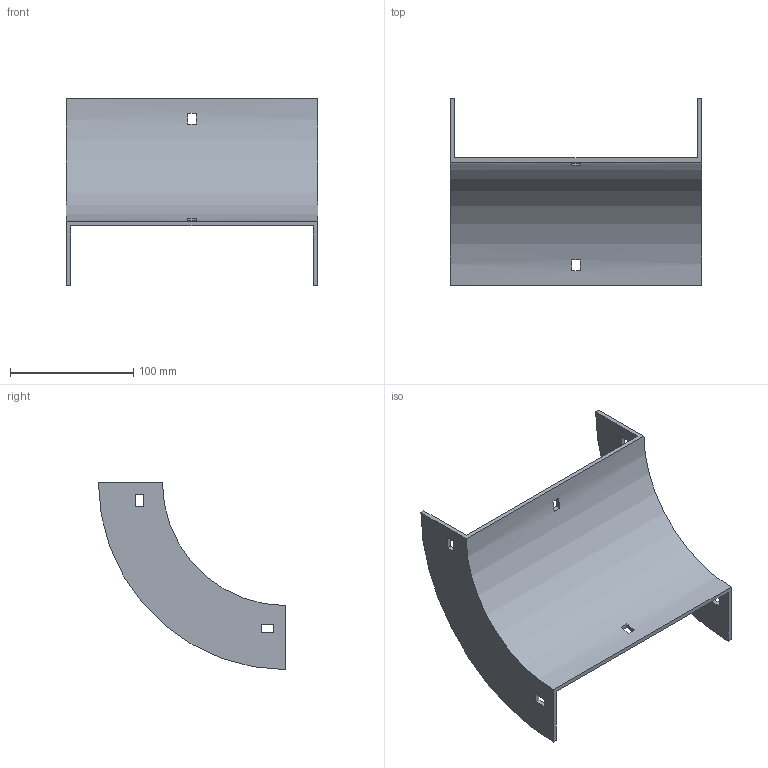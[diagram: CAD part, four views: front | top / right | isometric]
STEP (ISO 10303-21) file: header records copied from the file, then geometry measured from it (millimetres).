
FILE_DESCRIPTION (( 'STEP AP214' ), '1' );
FILE_NAME ('33B1B200.step', '2025-02-21T09:31:32', ( '' ), ( '' ), 'SwSTEP 2.0', 'SolidWorks 2023', '' );
FILE_SCHEMA (( 'AUTOMOTIVE_DESIGN' ));
Length unit declared in the file: millimetre
Products named in the file (1): 33B1B200
Bounding box: 204 x 152 x 152 mm (x, y, z)
Volume: 180849.6 mm3; surface area: 107797.8 mm2
Topology: 1 solids, 1 shells, 34 faces, 96 edges, 64 vertices
Faces by surface type: plane 30, cylinder 4
Entity records: 1143 total; most frequent: CARTESIAN_POINT 195, ORIENTED_EDGE 192, DIRECTION 182, EDGE_CURVE 96, LINE 80, VECTOR 80, VERTEX_POINT 64, AXIS2_PLACEMENT_3D 51
